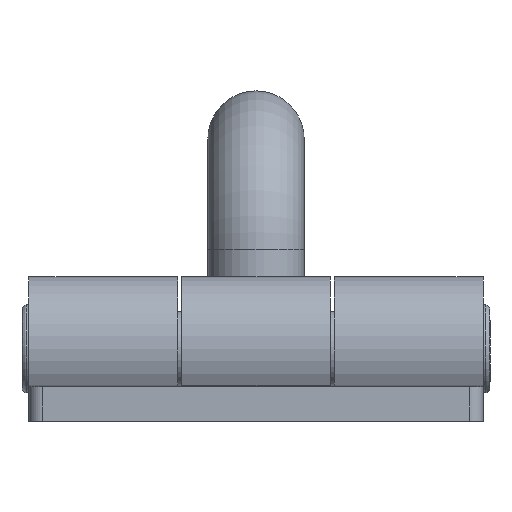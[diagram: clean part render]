
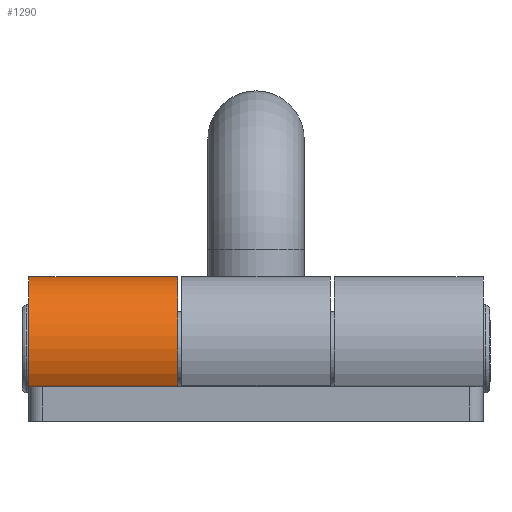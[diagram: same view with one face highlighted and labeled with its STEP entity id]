
A CAD part, left-side view. The second image highlights one B-rep face of the part: STEP entity #1290.
In plain terms, the highlighted cylindrical face has radius 5.25 mm (diameter 10.5 mm), a partial arc.
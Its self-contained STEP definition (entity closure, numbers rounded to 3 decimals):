
#175=FACE_OUTER_BOUND('',#267,.T.);
#267=EDGE_LOOP('',(#1104,#1105,#1106,#1107));
#372=LINE('',#2057,#462);
#403=LINE('',#2151,#493);
#462=VECTOR('',#1639,10.8);
#493=VECTOR('',#1740,10.8);
#548=CIRCLE('',#1404,5.25);
#553=CIRCLE('',#1411,5.25);
#639=VERTEX_POINT('',#2054);
#640=VERTEX_POINT('',#2056);
#663=VERTEX_POINT('',#2126);
#668=VERTEX_POINT('',#2141);
#778=EDGE_CURVE('',#639,#640,#372,.T.);
#813=EDGE_CURVE('',#640,#663,#548,.T.);
#822=EDGE_CURVE('',#639,#668,#553,.T.);
#826=EDGE_CURVE('',#668,#663,#403,.T.);
#1104=ORIENTED_EDGE('',*,*,#822,.T.);
#1105=ORIENTED_EDGE('',*,*,#826,.T.);
#1106=ORIENTED_EDGE('',*,*,#813,.F.);
#1107=ORIENTED_EDGE('',*,*,#778,.F.);
#1230=CYLINDRICAL_SURFACE('',#1417,5.25);
#1290=ADVANCED_FACE('',(#175),#1230,.T.);
#1404=AXIS2_PLACEMENT_3D('',#2127,#1709,#1710);
#1411=AXIS2_PLACEMENT_3D('',#2143,#1727,#1728);
#1417=AXIS2_PLACEMENT_3D('',#2154,#1744,#1745);
#1639=DIRECTION('',(0.,1.,0.));
#1709=DIRECTION('center_axis',(0.,1.,0.));
#1710=DIRECTION('ref_axis',(0.852,0.,-0.524));
#1727=DIRECTION('center_axis',(0.,1.,0.));
#1728=DIRECTION('ref_axis',(0.852,0.,-0.524));
#1740=DIRECTION('',(0.,1.,0.));
#1744=DIRECTION('center_axis',(0.,1.,0.));
#1745=DIRECTION('ref_axis',(0.852,0.,-0.524));
#2054=CARTESIAN_POINT('',(0.,22.2,0.));
#2056=CARTESIAN_POINT('',(0.,33.,0.));
#2057=CARTESIAN_POINT('',(0.,0.,0.));
#2126=CARTESIAN_POINT('',(4.547,33.,2.625));
#2127=CARTESIAN_POINT('Origin',(0.,33.,5.25));
#2141=CARTESIAN_POINT('',(4.547,22.2,2.625));
#2143=CARTESIAN_POINT('Origin',(0.,22.2,5.25));
#2151=CARTESIAN_POINT('',(4.547,0.,2.625));
#2154=CARTESIAN_POINT('Origin',(0.,0.,5.25));
